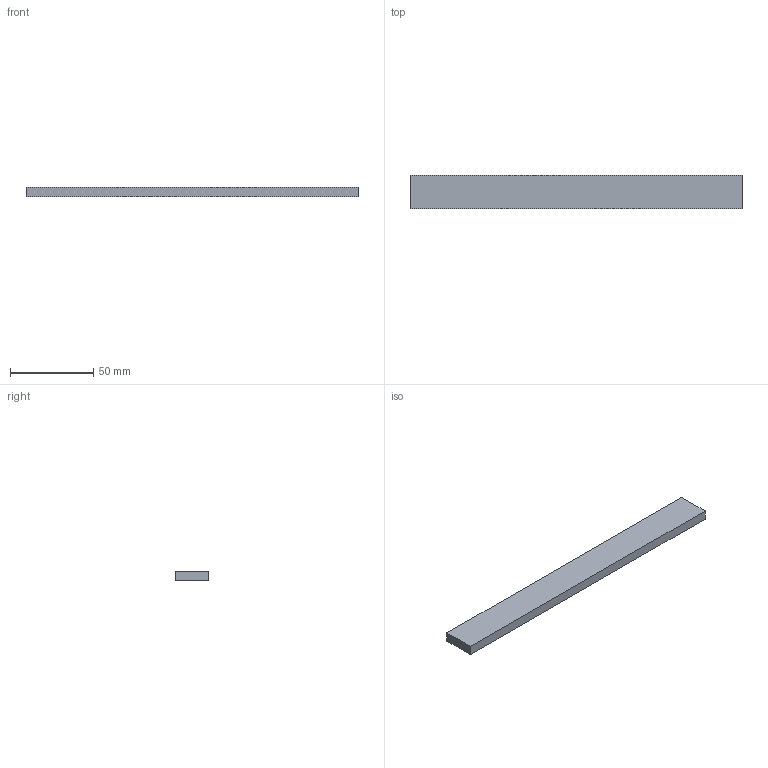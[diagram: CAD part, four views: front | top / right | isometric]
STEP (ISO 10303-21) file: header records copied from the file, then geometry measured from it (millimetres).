
FILE_DESCRIPTION(('Open CASCADE Model'),'2;1');
FILE_NAME('Open CASCADE Shape Model','2026-10-19T10:09:19',('Author'),( 'Open CASCADE'),'Open CASCADE STEP processor 8.0','Open CASCADE 8.0' ,'Unknown');
FILE_SCHEMA(('AUTOMOTIVE_DESIGN { 1 0 10303 214 1 1 1 1 }'));
Length unit declared in the file: millimetre
Products named in the file (1): U01_CALCE_200x20x6_P05 26
Bounding box: 200 x 20 x 6 mm (x, y, z)
Volume: 24000 mm3; surface area: 10640 mm2
Topology: 1 solids, 1 shells, 6 faces, 12 edges, 8 vertices
Faces by surface type: plane 6
Entity records: 322 total; most frequent: CARTESIAN_POINT 51, DIRECTION 50, LINE 36, VECTOR 36, ORIENTED_EDGE 24, PCURVE 24, DEFINITIONAL_REPRESENTATION 24, EDGE_CURVE 12
